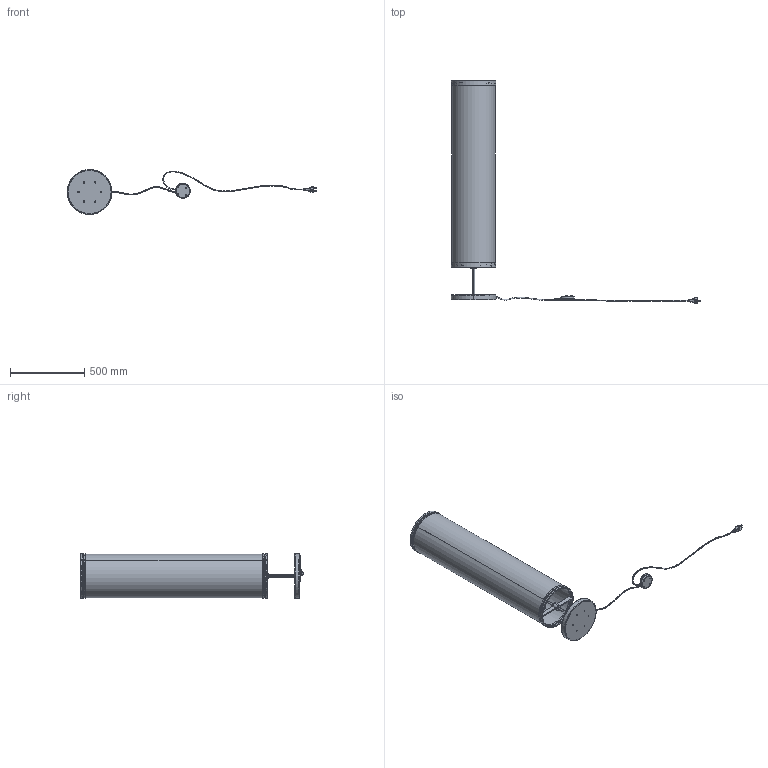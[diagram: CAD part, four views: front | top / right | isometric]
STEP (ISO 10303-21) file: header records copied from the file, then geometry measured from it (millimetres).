
FILE_DESCRIPTION (( 'STEP AP203' ), '1' );
FILE_NAME ('X15-F001 Isol Floor_27.STEP', '2023-06-27T12:18:09', ( '' ), ( '' ), 'SwSTEP 2.0', 'SolidWorks 2023', '' );
FILE_SCHEMA (( 'CONFIG_CONTROL_DESIGN' ));
Length unit declared in the file: millimetre
Products named in the file (26): ATC-X15-0550-R00; ATC-A04-0000-R00; ATC-X15-0650-R00; ATC-X15-0610-R00; ATC-A04-0030-R00; Vite a Testa Svasata Piana Cava Esagonale UNI-5933_VITE M4X10 TSPCE UNI-5933; ATC-X15-0560-R00; ATC-X15-0750-R00; ATC-X15-0790-R00; Rondella Steab 5xxx_RONDELLA _X2_00d8_X0_10,5 _X2_00d8_X0_15 SP.2 POLIETILENE; ATC-A04-0120-R00; Schuko-Stecker; ATC-A04-0070-R00; X15-F001 Isol Floor_27; ATC-X15-0620-R00; ATC-X15-0530-R00; ATC-X15-0570-R00; ATC-X15-0600-R00; ATC-A04-0010-R01; ATC-X15-0520-R00; Lamp. S14s Linestra Led L.1000mm; ATC-X15-0540-R00; ATC-A04-0230-R00; Dimmer Arditi 1012; ATC-X15-0640-R00; Nipplo Steab 5016xx_NIPPLO M10X1 L.10 NERO 5016-3-10-2-6
Assembly tree (35 placements, depth 4):
  X15-F001 Isol Floor_27
    ATC-X15-0560-R00
    ATC-X15-0520-R00
      ATC-X15-0530-R00
        ATC-X15-0540-R00
        ATC-A04-0030-R00  x4
        ATC-A04-0070-R00  x2
        ATC-X15-0620-R00
      ATC-A04-0000-R00  x2
      ATC-A04-0010-R01  x2
      ATC-A04-0120-R00
      ATC-A04-0230-R00
      Lamp. S14s Linestra Led L.1000mm  x2
      Rondella Steab 5xxx_RONDELLA _X2_00d8_X0_10,5 _X2_00d8_X0_15 SP.2 POLIETILENE
    ATC-X15-0550-R00
    ATC-X15-0750-R00
      ATC-X15-0570-R00
      ATC-X15-0600-R00
    ATC-X15-0610-R00
    Nipplo Steab 5016xx_NIPPLO M10X1 L.10 NERO 5016-3-10-2-6
    Vite a Testa Svasata Piana Cava Esagonale UNI-5933_VITE M4X10 TSPCE UNI-5933  x4
    ATC-X15-0790-R00
      ATC-X15-0640-R00
      Dimmer Arditi 1012
      ATC-X15-0650-R00
      Schuko-Stecker
Bounding box: 1684.54 x 1504.1 x 302 mm (x, y, z)
Volume: 3686064.2 mm3; surface area: 3597487 mm2
Topology: 41 solids, 41 shells, 1584 faces, 3932 edges, 2452 vertices
Faces by surface type: cylinder 566, plane 502, bspline 246, cone 183, torus 71, sphere 16
Entity records: 66391 total; most frequent: CARTESIAN_POINT 35903, ORIENTED_EDGE 6078, DIRECTION 5371, EDGE_CURVE 3039, AXIS2_PLACEMENT_3D 2098, VERTEX_POINT 1910, EDGE_LOOP 1311, FACE_OUTER_BOUND 1214
